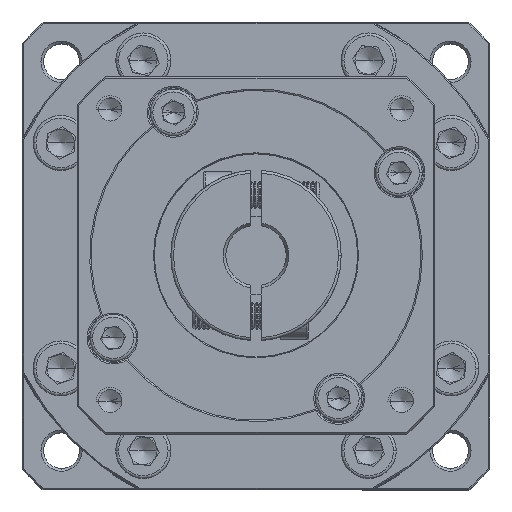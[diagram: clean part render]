
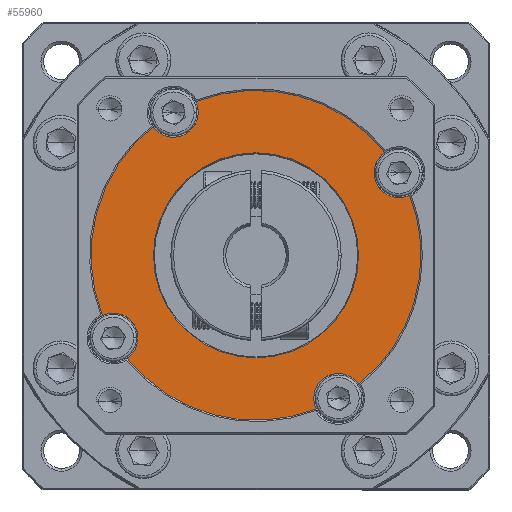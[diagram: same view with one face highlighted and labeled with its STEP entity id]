
A CAD part, top view. The second image highlights one B-rep face of the part: STEP entity #55960.
In plain terms, the highlighted planar face has unit normal (0, 0, 1).
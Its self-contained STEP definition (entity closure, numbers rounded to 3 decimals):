
#1531 = DIRECTION ( 'NONE',  ( 0., 0., -1. ) ) ;
#2540 = AXIS2_PLACEMENT_3D ( 'NONE', #14903, #79194, #24182 ) ;
#3024 = ORIENTED_EDGE ( 'NONE', *, *, #70854, .T. ) ;
#3382 = CIRCLE ( 'NONE', #79618, 4.5 ) ;
#3912 = DIRECTION ( 'NONE',  ( 0., 0., 1. ) ) ;
#4594 = VERTEX_POINT ( 'NONE', #99494 ) ;
#6224 = EDGE_CURVE ( 'NONE', #114944, #112124, #98461, .T. ) ;
#6484 = CARTESIAN_POINT ( 'NONE',  ( -59.592, -12.279, 20.709 ) ) ;
#8105 = VERTEX_POINT ( 'NONE', #6484 ) ;
#8378 = AXIS2_PLACEMENT_3D ( 'NONE', #56543, #1531, #65880 ) ;
#9624 = CARTESIAN_POINT ( 'NONE',  ( -63.31, -14.815, 20.709 ) ) ;
#9690 = DIRECTION ( 'NONE',  ( 0., 0., 1. ) ) ;
#14390 = CIRCLE ( 'NONE', #65419, 4.5 ) ;
#14538 = ORIENTED_EDGE ( 'NONE', *, *, #6224, .F. ) ;
#14903 = CARTESIAN_POINT ( 'NONE',  ( -78.31, 11.166, 20.709 ) ) ;
#14949 = EDGE_CURVE ( 'NONE', #16890, #114944, #14390, .T. ) ;
#15201 = AXIS2_PLACEMENT_3D ( 'NONE', #9624, #73938, #18856 ) ;
#15388 = CIRCLE ( 'NONE', #76843, 30. ) ;
#15476 = CARTESIAN_POINT ( 'NONE',  ( -67.81, -14.815, 20.709 ) ) ;
#15876 = DIRECTION ( 'NONE',  ( 0., 0., 1. ) ) ;
#16182 = CARTESIAN_POINT ( 'NONE',  ( -52.329, 26.166, 20.709 ) ) ;
#16890 = VERTEX_POINT ( 'NONE', #32176 ) ;
#17756 = ORIENTED_EDGE ( 'NONE', *, *, #79542, .F. ) ;
#17780 = CARTESIAN_POINT ( 'NONE',  ( -59.665, 11.166, 20.709 ) ) ;
#18561 = CARTESIAN_POINT ( 'NONE',  ( -106.242, 0.221, 20.709 ) ) ;
#18856 = DIRECTION ( 'NONE',  ( 1., 0., 0. ) ) ;
#19558 = VERTEX_POINT ( 'NONE', #74297 ) ;
#20135 = CIRCLE ( 'NONE', #71431, 4.5 ) ;
#20616 = DIRECTION ( 'NONE',  ( 0., 0., 1. ) ) ;
#22398 = EDGE_CURVE ( 'NONE', #4594, #44861, #15388, .T. ) ;
#22729 = EDGE_CURVE ( 'NONE', #110739, #43256, #84150, .T. ) ;
#23672 = FACE_OUTER_BOUND ( 'NONE', #67108, .T. ) ;
#23740 = CARTESIAN_POINT ( 'NONE',  ( -78.31, 11.166, 20.709 ) ) ;
#24182 = DIRECTION ( 'NONE',  ( 1., 0., 0. ) ) ;
#25448 = DIRECTION ( 'NONE',  ( 1., 0., 0. ) ) ;
#25666 = VERTEX_POINT ( 'NONE', #67769 ) ;
#26115 = ORIENTED_EDGE ( 'NONE', *, *, #22398, .T. ) ;
#26227 = CARTESIAN_POINT ( 'NONE',  ( -88.81, 37.147, 20.709 ) ) ;
#29967 = VERTEX_POINT ( 'NONE', #15476 ) ;
#32176 = CARTESIAN_POINT ( 'NONE',  ( -54.865, 29.884, 20.709 ) ) ;
#32954 = DIRECTION ( 'NONE',  ( 1., 0., 0. ) ) ;
#33175 = CARTESIAN_POINT ( 'NONE',  ( -93.31, 37.147, 20.709 ) ) ;
#33886 = CARTESIAN_POINT ( 'NONE',  ( -78.31, 11.166, 20.709 ) ) ;
#35078 = CIRCLE ( 'NONE', #85224, 30. ) ;
#36175 = VERTEX_POINT ( 'NONE', #26227 ) ;
#36457 = CIRCLE ( 'NONE', #2540, 18.644 ) ;
#37920 = CARTESIAN_POINT ( 'NONE',  ( -52.329, 26.166, 20.709 ) ) ;
#38323 = CARTESIAN_POINT ( 'NONE',  ( -56.829, 26.166, 20.709 ) ) ;
#39141 = ORIENTED_EDGE ( 'NONE', *, *, #103829, .F. ) ;
#42429 = DIRECTION ( 'NONE',  ( 1., 0., 0. ) ) ;
#43142 = DIRECTION ( 'NONE',  ( 1., 0., 0. ) ) ;
#43256 = VERTEX_POINT ( 'NONE', #17780 ) ;
#44137 = DIRECTION ( 'NONE',  ( 0., 0., 1. ) ) ;
#44861 = VERTEX_POINT ( 'NONE', #89993 ) ;
#45106 = CARTESIAN_POINT ( 'NONE',  ( -78.31, 11.166, 20.709 ) ) ;
#45204 = DIRECTION ( 'NONE',  ( 0., 0., 1. ) ) ;
#45231 = FACE_BOUND ( 'NONE', #62819, .T. ) ;
#45379 = CIRCLE ( 'NONE', #112153, 30. ) ;
#46617 = CIRCLE ( 'NONE', #68462, 30. ) ;
#47192 = DIRECTION ( 'NONE',  ( 1., 0., 0. ) ) ;
#47851 = DIRECTION ( 'NONE',  ( 0., 0., 1. ) ) ;
#48217 = AXIS2_PLACEMENT_3D ( 'NONE', #16182, #80438, #25448 ) ;
#50486 = CIRCLE ( 'NONE', #56984, 4.5 ) ;
#50670 = ORIENTED_EDGE ( 'NONE', *, *, #74290, .F. ) ;
#51125 = EDGE_CURVE ( 'NONE', #19558, #36175, #50486, .T. ) ;
#53607 = CIRCLE ( 'NONE', #79446, 30. ) ;
#54334 = DIRECTION ( 'NONE',  ( 1., 0., 0. ) ) ;
#54511 = CIRCLE ( 'NONE', #118714, 4.5 ) ;
#54979 = ORIENTED_EDGE ( 'NONE', *, *, #107920, .F. ) ;
#55555 = VERTEX_POINT ( 'NONE', #81749 ) ;
#55960 = ADVANCED_FACE ( 'NONE', ( #45231, #23672 ), #116153, .T. ) ;
#56141 = EDGE_CURVE ( 'NONE', #19558, #73143, #35078, .T. ) ;
#56474 = EDGE_CURVE ( 'NONE', #16890, #25666, #46617, .T. ) ;
#56543 = CARTESIAN_POINT ( 'NONE',  ( -78.31, 11.166, 20.709 ) ) ;
#56984 = AXIS2_PLACEMENT_3D ( 'NONE', #58927, #3912, #68234 ) ;
#58927 = CARTESIAN_POINT ( 'NONE',  ( -93.31, 37.147, 20.709 ) ) ;
#61318 = AXIS2_PLACEMENT_3D ( 'NONE', #33175, #97397, #42429 ) ;
#62206 = ORIENTED_EDGE ( 'NONE', *, *, #101451, .T. ) ;
#62819 = EDGE_LOOP ( 'NONE', ( #87888, #76503 ) ) ;
#63572 = ORIENTED_EDGE ( 'NONE', *, *, #56474, .T. ) ;
#64793 = CARTESIAN_POINT ( 'NONE',  ( -104.291, -3.834, 20.709 ) ) ;
#65419 = AXIS2_PLACEMENT_3D ( 'NONE', #37920, #102104, #47192 ) ;
#65880 = DIRECTION ( 'NONE',  ( 1., 0., 0. ) ) ;
#66601 = ORIENTED_EDGE ( 'NONE', *, *, #51125, .F. ) ;
#67108 = EDGE_LOOP ( 'NONE', ( #39141, #26115, #107925, #50670, #62206, #3024, #14538, #76476, #63572, #54979, #66601, #76693, #17756 ) ) ;
#67769 = CARTESIAN_POINT ( 'NONE',  ( -89.255, 39.098, 20.709 ) ) ;
#68116 = CIRCLE ( 'NONE', #15201, 4.5 ) ;
#68234 = DIRECTION ( 'NONE',  ( 1., 0., 0. ) ) ;
#68462 = AXIS2_PLACEMENT_3D ( 'NONE', #70984, #15876, #80149 ) ;
#70854 = EDGE_CURVE ( 'NONE', #114002, #112124, #53607, .T. ) ;
#70984 = CARTESIAN_POINT ( 'NONE',  ( -78.31, 11.166, 20.709 ) ) ;
#71431 = AXIS2_PLACEMENT_3D ( 'NONE', #102770, #47851, #111977 ) ;
#73143 = VERTEX_POINT ( 'NONE', #18561 ) ;
#73668 = CIRCLE ( 'NONE', #61318, 4.5 ) ;
#73938 = DIRECTION ( 'NONE',  ( 0., 0., 1. ) ) ;
#74003 = DIRECTION ( 'NONE',  ( 1., 0., 0. ) ) ;
#74290 = EDGE_CURVE ( 'NONE', #8105, #29967, #68116, .T. ) ;
#74297 = CARTESIAN_POINT ( 'NONE',  ( -97.027, 34.611, 20.709 ) ) ;
#75644 = CARTESIAN_POINT ( 'NONE',  ( -78.31, 11.166, 20.709 ) ) ;
#76476 = ORIENTED_EDGE ( 'NONE', *, *, #14949, .F. ) ;
#76503 = ORIENTED_EDGE ( 'NONE', *, *, #22729, .T. ) ;
#76693 = ORIENTED_EDGE ( 'NONE', *, *, #56141, .T. ) ;
#76843 = AXIS2_PLACEMENT_3D ( 'NONE', #23740, #87961, #32954 ) ;
#79194 = DIRECTION ( 'NONE',  ( 0., 0., -1. ) ) ;
#79446 = AXIS2_PLACEMENT_3D ( 'NONE', #99053, #44137, #108219 ) ;
#79542 = EDGE_CURVE ( 'NONE', #55555, #73143, #20135, .T. ) ;
#79618 = AXIS2_PLACEMENT_3D ( 'NONE', #100128, #45204, #109322 ) ;
#80149 = DIRECTION ( 'NONE',  ( 1., 0., 0. ) ) ;
#80438 = DIRECTION ( 'NONE',  ( 0., 0., 1. ) ) ;
#81749 = CARTESIAN_POINT ( 'NONE',  ( -99.791, -3.834, 20.709 ) ) ;
#84150 = CIRCLE ( 'NONE', #8378, 18.644 ) ;
#84796 = DIRECTION ( 'NONE',  ( 1., 0., 0. ) ) ;
#85224 = AXIS2_PLACEMENT_3D ( 'NONE', #45106, #109233, #54334 ) ;
#86145 = CARTESIAN_POINT ( 'NONE',  ( -50.378, 22.111, 20.709 ) ) ;
#87888 = ORIENTED_EDGE ( 'NONE', *, *, #117789, .T. ) ;
#87961 = DIRECTION ( 'NONE',  ( 0., 0., 1. ) ) ;
#89333 = CARTESIAN_POINT ( 'NONE',  ( -48.31, 11.166, 20.709 ) ) ;
#89993 = CARTESIAN_POINT ( 'NONE',  ( -67.365, -16.766, 20.709 ) ) ;
#97041 = CARTESIAN_POINT ( 'NONE',  ( -96.954, 11.166, 20.709 ) ) ;
#97397 = DIRECTION ( 'NONE',  ( 0., 0., 1. ) ) ;
#98082 = DIRECTION ( 'NONE',  ( 0., 0., 1. ) ) ;
#98461 = CIRCLE ( 'NONE', #48217, 4.5 ) ;
#99053 = CARTESIAN_POINT ( 'NONE',  ( -78.31, 11.166, 20.709 ) ) ;
#99494 = CARTESIAN_POINT ( 'NONE',  ( -101.755, -7.551, 20.709 ) ) ;
#100128 = CARTESIAN_POINT ( 'NONE',  ( -63.31, -14.815, 20.709 ) ) ;
#101451 = EDGE_CURVE ( 'NONE', #8105, #114002, #45379, .T. ) ;
#102104 = DIRECTION ( 'NONE',  ( 0., 0., 1. ) ) ;
#102770 = CARTESIAN_POINT ( 'NONE',  ( -104.291, -3.834, 20.709 ) ) ;
#103829 = EDGE_CURVE ( 'NONE', #4594, #55555, #54511, .T. ) ;
#107920 = EDGE_CURVE ( 'NONE', #36175, #25666, #73668, .T. ) ;
#107925 = ORIENTED_EDGE ( 'NONE', *, *, #112375, .F. ) ;
#108219 = DIRECTION ( 'NONE',  ( 1., 0., 0. ) ) ;
#109233 = DIRECTION ( 'NONE',  ( 0., 0., 1. ) ) ;
#109322 = DIRECTION ( 'NONE',  ( 1., 0., 0. ) ) ;
#110739 = VERTEX_POINT ( 'NONE', #97041 ) ;
#111977 = DIRECTION ( 'NONE',  ( 1., 0., 0. ) ) ;
#112124 = VERTEX_POINT ( 'NONE', #86145 ) ;
#112153 = AXIS2_PLACEMENT_3D ( 'NONE', #75644, #20616, #84796 ) ;
#112375 = EDGE_CURVE ( 'NONE', #29967, #44861, #3382, .T. ) ;
#114002 = VERTEX_POINT ( 'NONE', #89333 ) ;
#114944 = VERTEX_POINT ( 'NONE', #38323 ) ;
#116153 = PLANE ( 'NONE',  #118269 ) ;
#117789 = EDGE_CURVE ( 'NONE', #43256, #110739, #36457, .T. ) ;
#118269 = AXIS2_PLACEMENT_3D ( 'NONE', #33886, #98082, #43142 ) ;
#118714 = AXIS2_PLACEMENT_3D ( 'NONE', #64793, #9690, #74003 ) ;
